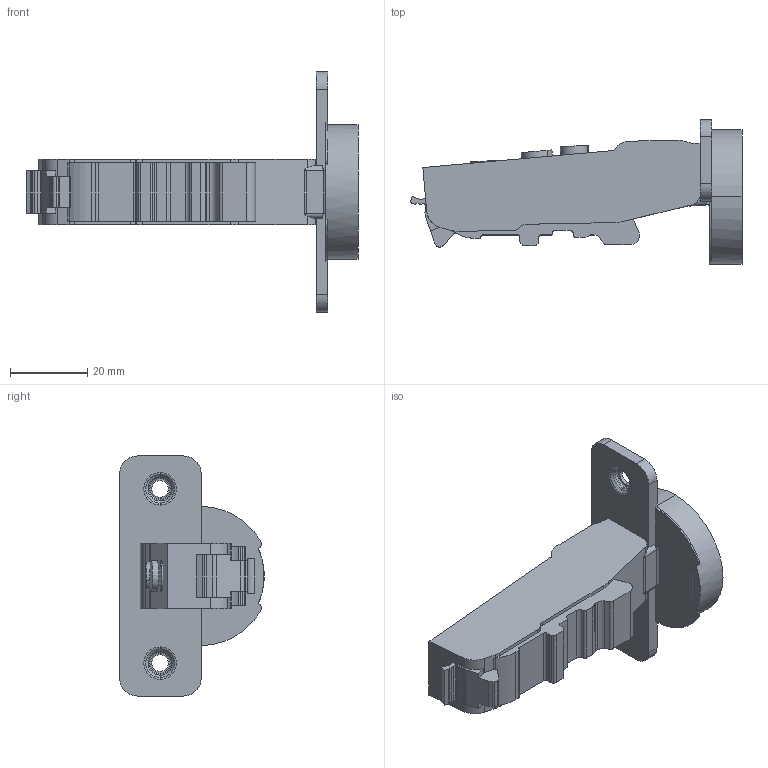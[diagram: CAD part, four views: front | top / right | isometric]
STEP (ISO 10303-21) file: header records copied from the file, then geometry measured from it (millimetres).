
FILE_DESCRIPTION (( 'STEP AP203' ), '1' );
FILE_NAME ('C81B8Q5FAB -DTC 3D close.STEP', '2024-11-29T08:33:04', ( '微软用户' ), ( '微软中国' ), 'SwSTEP 2.0', 'SolidWorks 2021', '' );
FILE_SCHEMA (( 'CONFIG_CONTROL_DESIGN' ));
Length unit declared in the file: millimetre
Products named in the file (1): C81B8Q5FAB -DTC 3D close
Bounding box: 85.76 x 37.3 x 62 mm (x, y, z)
Volume: 35523.4 mm3; surface area: 10703 mm2
Topology: 1 solids, 2 shells, 231 faces, 667 edges, 438 vertices
Faces by surface type: plane 135, cylinder 77, torus 12, cone 4, bspline 3
Entity records: 7760 total; most frequent: CARTESIAN_POINT 1485, ORIENTED_EDGE 1334, DIRECTION 1284, EDGE_CURVE 667, LINE 466, VECTOR 466, VERTEX_POINT 438, AXIS2_PLACEMENT_3D 409
